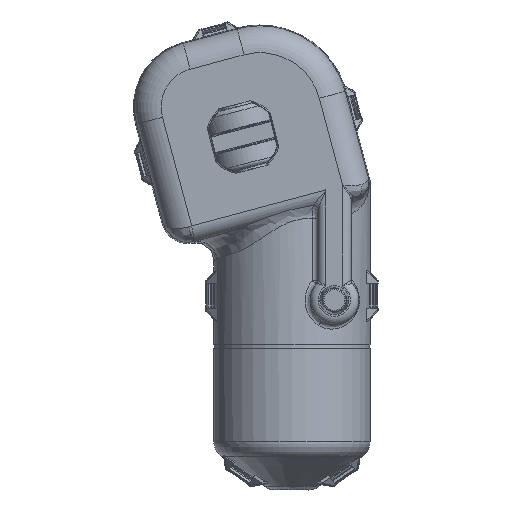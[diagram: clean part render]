
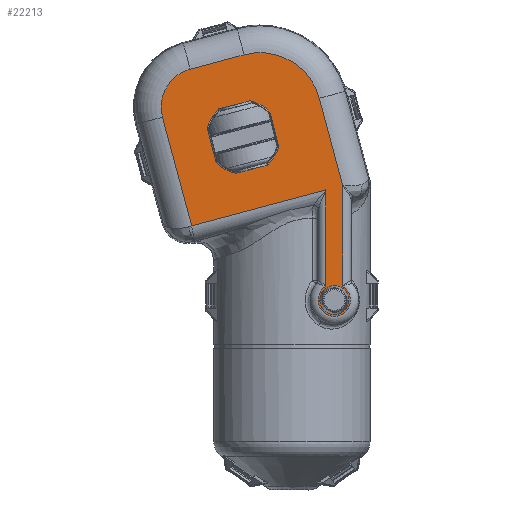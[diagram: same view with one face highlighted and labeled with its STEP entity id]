
A CAD part, top view. The second image highlights one B-rep face of the part: STEP entity #22213.
In plain terms, the highlighted planar face has unit normal (0, 0, 1).
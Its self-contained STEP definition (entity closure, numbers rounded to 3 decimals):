
#5409=CARTESIAN_POINT('',(-23.026,-39.775,
62.289));
#5458=DIRECTION('',(0.259,-0.966,0.));
#5459=VECTOR('',#5458,40.453);
#5460=CARTESIAN_POINT('',(34.185,17.442,62.289));
#5461=LINE('',#5460,#5459);
#5462=CARTESIAN_POINT('',(40.9,-73.,62.289));
#5463=DIRECTION('',(0.,0.,-1.));
#5464=DIRECTION('',(0.517,0.856,0.));
#5465=AXIS2_PLACEMENT_3D('',#5462,#5463,#5464);
#5467=CARTESIAN_POINT('',(40.9,-73.,62.289));
#5468=DIRECTION('',(0.,0.,-1.));
#5469=DIRECTION('',(0.182,-0.983,0.));
#5470=AXIS2_PLACEMENT_3D('',#5467,#5468,#5469);
#5472=DIRECTION('',(-0.966,-0.259,0.));
#5473=VECTOR('',#5472,62.299);
#5474=CARTESIAN_POINT('',(37.15,-23.651,62.289));
#5475=LINE('',#5474,#5473);
#5476=DIRECTION('',(-0.259,0.966,0.));
#5477=VECTOR('',#5476,50.46);
#5478=CARTESIAN_POINT('',(-23.026,-39.775,
62.289));
#5479=LINE('',#5478,#5477);
#5480=CARTESIAN_POINT('',(-19.148,13.504,62.289));
#5481=DIRECTION('',(0.,0.,-1.));
#5482=DIRECTION('',(-0.966,-0.259,0.));
#5483=AXIS2_PLACEMENT_3D('',#5480,#5481,#5482);
#5485=DIRECTION('',(0.966,0.259,0.));
#5486=VECTOR('',#5485,25.);
#5487=CARTESIAN_POINT('',(-23.686,30.442,62.289));
#5488=LINE('',#5487,#5486);
#5489=CARTESIAN_POINT('',(7.589,10.316,62.289));
#5490=DIRECTION('',(0.,0.,-1.));
#5491=DIRECTION('',(-0.259,0.966,0.));
#5492=AXIS2_PLACEMENT_3D('',#5489,#5490,#5491);
#5494=CARTESIAN_POINT('',(40.9,-73.,62.289));
#5495=DIRECTION('',(0.,0.,1.));
#5496=DIRECTION('',(-1.,0.,0.));
#5497=AXIS2_PLACEMENT_3D('',#5494,#5495,#5496);
#5499=CARTESIAN_POINT('',(40.9,-73.,62.289));
#5500=DIRECTION('',(0.,0.,1.));
#5501=DIRECTION('',(1.,0.,0.));
#5502=AXIS2_PLACEMENT_3D('',#5499,#5500,#5501);
#5504=CARTESIAN_POINT('',(0.,0.,62.289));
#5505=DIRECTION('',(0.,0.,1.));
#5506=DIRECTION('',(0.732,0.682,0.));
#5507=AXIS2_PLACEMENT_3D('',#5504,#5505,#5506);
#5509=CARTESIAN_POINT('',(0.,0.,62.289));
#5510=DIRECTION('',(0.,0.,1.));
#5511=DIRECTION('',(0.307,0.952,0.));
#5512=AXIS2_PLACEMENT_3D('',#5509,#5510,#5511);
#5514=DIRECTION('',(-0.968,-0.25,0.));
#5515=VECTOR('',#5514,15.746);
#5516=CARTESIAN_POINT('',(4.004,16.002,62.289));
#5517=LINE('',#5516,#5515);
#5518=CARTESIAN_POINT('',(0.,0.,62.289));
#5519=DIRECTION('',(0.,0.,1.));
#5520=DIRECTION('',(-0.682,0.732,0.));
#5521=AXIS2_PLACEMENT_3D('',#5518,#5519,#5520);
#5523=DIRECTION('',(0.25,-0.968,0.));
#5524=VECTOR('',#5523,15.746);
#5525=CARTESIAN_POINT('',(-16.002,4.004,62.289));
#5526=LINE('',#5525,#5524);
#5527=CARTESIAN_POINT('',(0.,0.,62.289));
#5528=DIRECTION('',(0.,0.,1.));
#5529=DIRECTION('',(-0.732,-0.682,0.));
#5530=AXIS2_PLACEMENT_3D('',#5527,#5528,#5529);
#5532=CARTESIAN_POINT('',(0.,0.,62.289));
#5533=DIRECTION('',(0.,0.,1.));
#5534=DIRECTION('',(-0.307,-0.952,0.));
#5535=AXIS2_PLACEMENT_3D('',#5532,#5533,#5534);
#5537=DIRECTION('',(0.968,0.25,0.));
#5538=VECTOR('',#5537,15.746);
#5539=CARTESIAN_POINT('',(-4.004,-16.002,
62.289));
#5540=LINE('',#5539,#5538);
#5541=CARTESIAN_POINT('',(0.,0.,62.289));
#5542=DIRECTION('',(0.,0.,1.));
#5543=DIRECTION('',(0.682,-0.732,0.));
#5544=AXIS2_PLACEMENT_3D('',#5541,#5542,#5543);
#5546=DIRECTION('',(-0.25,0.968,0.));
#5547=VECTOR('',#5546,15.746);
#5548=CARTESIAN_POINT('',(16.002,-4.004,62.289));
#5549=LINE('',#5548,#5547);
#5790=DIRECTION('',(0.,-1.,0.));
#5791=VECTOR('',#5790,43.145);
#5792=CARTESIAN_POINT('',(37.15,-23.651,62.289));
#5793=LINE('',#5792,#5791);
#6246=DIRECTION('',(0.,1.,0.));
#6247=VECTOR('',#6246,45.162);
#6248=CARTESIAN_POINT('',(44.65,-66.795,62.289));
#6249=LINE('',#6248,#6247);
#13646=VERTEX_POINT('',#5409);
#13648=CARTESIAN_POINT('',(37.15,-23.651,
62.289));
#13649=VERTEX_POINT('',#13648);
#13654=CARTESIAN_POINT('',(-36.086,8.966,
62.289));
#13655=VERTEX_POINT('',#13654);
#13656=CARTESIAN_POINT('',(-23.686,30.442,
62.289));
#13657=VERTEX_POINT('',#13656);
#13658=CARTESIAN_POINT('',(34.185,17.442,62.289));
#13659=CARTESIAN_POINT('',(44.65,-21.633,
62.289));
#13660=VERTEX_POINT('',#13658);
#13661=VERTEX_POINT('',#13659);
#13662=CARTESIAN_POINT('',(44.65,-66.795,
62.289));
#13663=VERTEX_POINT('',#13662);
#13664=CARTESIAN_POINT('',(42.216,-80.13,
62.289));
#13665=CARTESIAN_POINT('',(37.15,-66.795,62.289));
#13666=VERTEX_POINT('',#13664);
#13667=VERTEX_POINT('',#13665);
#13668=CARTESIAN_POINT('',(0.462,36.913,
62.289));
#13669=VERTEX_POINT('',#13668);
#13670=CARTESIAN_POINT('',(34.4,-73.,62.289));
#13671=CARTESIAN_POINT('',(47.4,-73.,62.289));
#13672=VERTEX_POINT('',#13670);
#13673=VERTEX_POINT('',#13671);
#13674=CARTESIAN_POINT('',(12.071,11.243,62.289));
#13675=CARTESIAN_POINT('',(5.065,15.699,62.289));
#13676=VERTEX_POINT('',#13674);
#13677=VERTEX_POINT('',#13675);
#13678=CARTESIAN_POINT('',(4.004,16.002,62.289));
#13679=VERTEX_POINT('',#13678);
#13680=CARTESIAN_POINT('',(-11.243,12.071,
62.289));
#13681=VERTEX_POINT('',#13680);
#13682=CARTESIAN_POINT('',(-16.002,4.004,
62.289));
#13683=VERTEX_POINT('',#13682);
#13684=CARTESIAN_POINT('',(-12.071,-11.243,
62.289));
#13685=VERTEX_POINT('',#13684);
#13686=CARTESIAN_POINT('',(-5.065,-15.699,
62.289));
#13687=VERTEX_POINT('',#13686);
#13688=CARTESIAN_POINT('',(-4.004,-16.002,
62.289));
#13689=VERTEX_POINT('',#13688);
#13690=CARTESIAN_POINT('',(11.243,-12.071,
62.289));
#13691=VERTEX_POINT('',#13690);
#13692=CARTESIAN_POINT('',(16.002,-4.004,
62.289));
#13693=VERTEX_POINT('',#13692);
#22160=CARTESIAN_POINT('',(35.35,-44.96,62.289));
#22161=DIRECTION('',(0.,0.,-1.));
#22162=DIRECTION('',(0.,1.,0.));
#22163=AXIS2_PLACEMENT_3D('',#22160,#22161,#22162);
#22164=PLANE('',#22163);
#22166=ORIENTED_EDGE('',*,*,#22165,.T.);
#22168=ORIENTED_EDGE('',*,*,#22167,.F.);
#22170=ORIENTED_EDGE('',*,*,#22169,.T.);
#22172=ORIENTED_EDGE('',*,*,#22171,.T.);
#22174=ORIENTED_EDGE('',*,*,#22173,.F.);
#22175=ORIENTED_EDGE('',*,*,#22147,.T.);
#22176=ORIENTED_EDGE('',*,*,#22014,.T.);
#22178=ORIENTED_EDGE('',*,*,#22177,.T.);
#22180=ORIENTED_EDGE('',*,*,#22179,.T.);
#22182=ORIENTED_EDGE('',*,*,#22181,.T.);
#22183=EDGE_LOOP('',(#22166,#22168,#22170,#22172,#22174,#22175,#22176,#22178,
#22180,#22182));
#22184=FACE_OUTER_BOUND('',#22183,.F.);
#22186=ORIENTED_EDGE('',*,*,#22185,.T.);
#22188=ORIENTED_EDGE('',*,*,#22187,.T.);
#22189=EDGE_LOOP('',(#22186,#22188));
#22190=FACE_BOUND('',#22189,.F.);
#22192=ORIENTED_EDGE('',*,*,#22191,.T.);
#22194=ORIENTED_EDGE('',*,*,#22193,.T.);
#22196=ORIENTED_EDGE('',*,*,#22195,.T.);
#22198=ORIENTED_EDGE('',*,*,#22197,.T.);
#22200=ORIENTED_EDGE('',*,*,#22199,.T.);
#22202=ORIENTED_EDGE('',*,*,#22201,.T.);
#22204=ORIENTED_EDGE('',*,*,#22203,.T.);
#22206=ORIENTED_EDGE('',*,*,#22205,.T.);
#22208=ORIENTED_EDGE('',*,*,#22207,.T.);
#22210=ORIENTED_EDGE('',*,*,#22209,.T.);
#22211=EDGE_LOOP('',(#22192,#22194,#22196,#22198,#22200,#22202,#22204,#22206,
#22208,#22210));
#22212=FACE_BOUND('',#22211,.F.);
#22213=ADVANCED_FACE('',(#22184,#22190,#22212),#22164,.F.);
#5466=CIRCLE('',#5465,7.25);
#5471=CIRCLE('',#5470,7.25);
#5484=CIRCLE('',#5483,17.536);
#5493=CIRCLE('',#5492,27.536);
#5498=CIRCLE('',#5497,6.5);
#5503=CIRCLE('',#5502,6.5);
#5508=CIRCLE('',#5507,16.496);
#5513=CIRCLE('',#5512,16.496);
#5522=CIRCLE('',#5521,16.496);
#5531=CIRCLE('',#5530,16.496);
#5536=CIRCLE('',#5535,16.496);
#5545=CIRCLE('',#5544,16.496);
#22014=EDGE_CURVE('',#13646,#13655,#5479,.T.);
#22147=EDGE_CURVE('',#13649,#13646,#5475,.T.);
#22165=EDGE_CURVE('',#13660,#13661,#5461,.T.);
#22167=EDGE_CURVE('',#13663,#13661,#6249,.T.);
#22169=EDGE_CURVE('',#13663,#13666,#5466,.T.);
#22171=EDGE_CURVE('',#13666,#13667,#5471,.T.);
#22173=EDGE_CURVE('',#13649,#13667,#5793,.T.);
#22177=EDGE_CURVE('',#13655,#13657,#5484,.T.);
#22179=EDGE_CURVE('',#13657,#13669,#5488,.T.);
#22181=EDGE_CURVE('',#13669,#13660,#5493,.T.);
#22185=EDGE_CURVE('',#13672,#13673,#5498,.T.);
#22187=EDGE_CURVE('',#13673,#13672,#5503,.T.);
#22191=EDGE_CURVE('',#13676,#13677,#5508,.T.);
#22193=EDGE_CURVE('',#13677,#13679,#5513,.T.);
#22195=EDGE_CURVE('',#13679,#13681,#5517,.T.);
#22197=EDGE_CURVE('',#13681,#13683,#5522,.T.);
#22199=EDGE_CURVE('',#13683,#13685,#5526,.T.);
#22201=EDGE_CURVE('',#13685,#13687,#5531,.T.);
#22203=EDGE_CURVE('',#13687,#13689,#5536,.T.);
#22205=EDGE_CURVE('',#13689,#13691,#5540,.T.);
#22207=EDGE_CURVE('',#13691,#13693,#5545,.T.);
#22209=EDGE_CURVE('',#13693,#13676,#5549,.T.);
